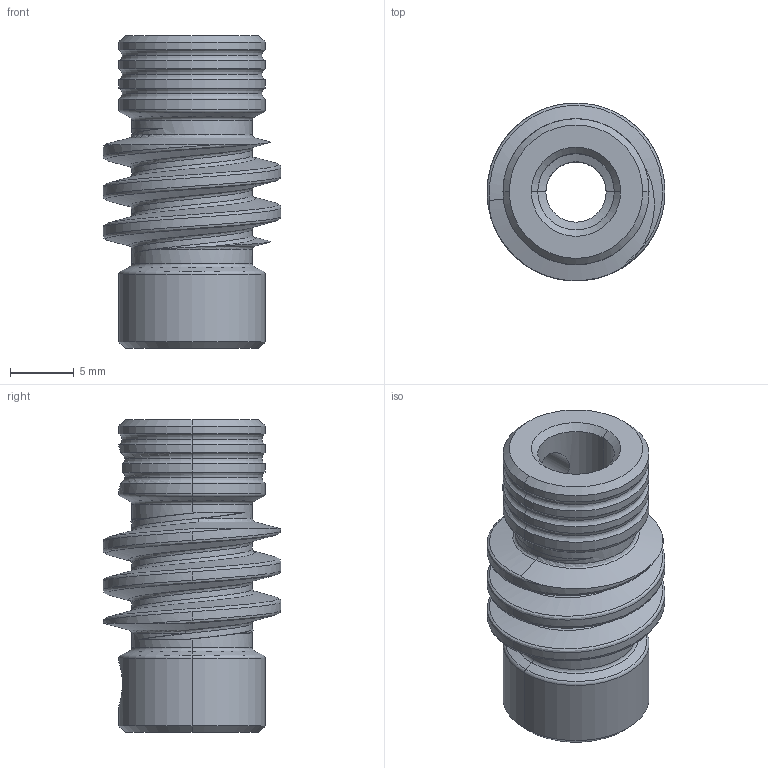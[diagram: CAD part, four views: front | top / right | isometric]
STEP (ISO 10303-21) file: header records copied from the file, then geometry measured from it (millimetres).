
FILE_DESCRIPTION(/* description */ (''),/* implementation_level */ '2;1');
FILE_NAME(/* name */ 'D:\FIRST\FTC KOP 2017\FTC 2017 KOP\Tetrix STEP\Miscellaneous\Tetrix_39901_Worm.ipt.step',/* time_stamp */ '2017-01-03T09:05:47-08:00',/* author */ ('Autodesk Inc.'),/* organization */ ('Autodesk Inc.'),/* preprocessor_version */ 'ST-DEVELOPER v16.5',/* originating_system */ 'Autodesk Inventor 2017',/* authorisation */ '');
FILE_SCHEMA (('AUTOMOTIVE_DESIGN { 1 0 10303 214 3 1 1 }'));
Length unit declared in the file: inch
Products named in the file (1): 739901-Worm
Bounding box: 14 x 13.99 x 24.6 mm (x, y, z)
Volume: 1849.7 mm3; surface area: 1871.8 mm2
Topology: 1 solids, 1 shells, 85 faces, 203 edges, 119 vertices
Faces by surface type: cylinder 30, torus 28, cone 17, bspline 6, plane 4
Entity records: 7494 total; most frequent: CARTESIAN_POINT 5556, ORIENTED_EDGE 406, DIRECTION 400, EDGE_CURVE 203, AXIS2_PLACEMENT_3D 176, VERTEX_POINT 119, CIRCLE 96, EDGE_LOOP 90
